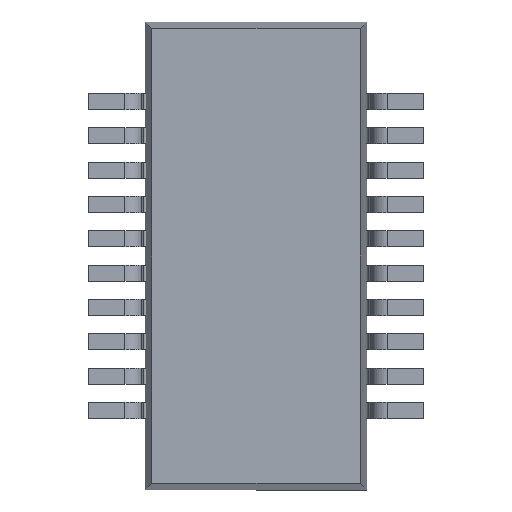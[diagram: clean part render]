
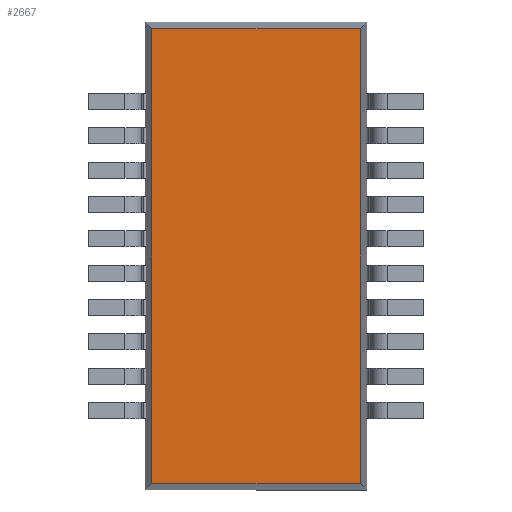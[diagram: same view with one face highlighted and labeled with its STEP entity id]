
A CAD part, front view. The second image highlights one B-rep face of the part: STEP entity #2667.
In plain terms, the highlighted planar face has unit normal (0, -1, 0).
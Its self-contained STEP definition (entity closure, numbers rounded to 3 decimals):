
#290 = ORIENTED_EDGE ( 'NONE', *, *, #1888, .T. ) ;
#291 = ORIENTED_EDGE ( 'NONE', *, *, #1948, .T. ) ;
#292 = ORIENTED_EDGE ( 'NONE', *, *, #1896, .T. ) ;
#293 = ORIENTED_EDGE ( 'NONE', *, *, #1949, .T. ) ;
#1888 = EDGE_CURVE ( 'NONE', #3251, #3254, #5149, .T. ) ;
#1896 = EDGE_CURVE ( 'NONE', #3241, #3249, #5169, .T. ) ;
#1948 = EDGE_CURVE ( 'NONE', #3254, #3241, #5269, .T. ) ;
#1949 = EDGE_CURVE ( 'NONE', #3249, #3251, #5271, .T. ) ;
#2667 = ADVANCED_FACE ( 'NONE', ( #8099 ), #7271, .F. ) ;
#3241 = VERTEX_POINT ( 'NONE', #11018 ) ;
#3249 = VERTEX_POINT ( 'NONE', #11026 ) ;
#3251 = VERTEX_POINT ( 'NONE', #11028 ) ;
#3254 = VERTEX_POINT ( 'NONE', #11031 ) ;
#3586 = EDGE_LOOP ( 'NONE', ( #290, #291, #292, #293 ) ) ;
#5035 = CARTESIAN_POINT ( 'NONE',  ( -1.927, 0.1, 4.33 ) ) ;
#5049 = DIRECTION ( 'NONE',  ( 0., 0., -1. ) ) ;
#5050 = CARTESIAN_POINT ( 'NONE',  ( 1.927, 0.1, 4.33 ) ) ;
#5063 = DIRECTION ( 'NONE',  ( 0., 0., 1. ) ) ;
#5149 = LINE ( 'NONE', #5035, #5158 ) ;
#5158 = VECTOR ( 'NONE', #5049, 1000. ) ;
#5169 = LINE ( 'NONE', #5050, #5174 ) ;
#5174 = VECTOR ( 'NONE', #5063, 1000. ) ;
#5269 = LINE ( 'NONE', #5943, #5272 ) ;
#5271 = LINE ( 'NONE', #5945, #5274 ) ;
#5272 = VECTOR ( 'NONE', #5944, 1000. ) ;
#5274 = VECTOR ( 'NONE', #5946, 1000. ) ;
#5943 = CARTESIAN_POINT ( 'NONE',  ( 2.05, 0.1, -4.207 ) ) ;
#5944 = DIRECTION ( 'NONE',  ( 1., 0., 0. ) ) ;
#5945 = CARTESIAN_POINT ( 'NONE',  ( 2.05, 0.1, 4.207 ) ) ;
#5946 = DIRECTION ( 'NONE',  ( -1., 0., 0. ) ) ;
#7271 = PLANE ( 'NONE',  #8423 ) ;
#7272 = CARTESIAN_POINT ( 'NONE',  ( 0., 0.1, 0. ) ) ;
#7284 = DIRECTION ( 'NONE',  ( 0., 1., 0. ) ) ;
#7285 = DIRECTION ( 'NONE',  ( 0., 0., 1. ) ) ;
#8099 = FACE_OUTER_BOUND ( 'NONE', #3586, .T. ) ;
#8423 = AXIS2_PLACEMENT_3D ( 'NONE', #7272, #7284, #7285 ) ;
#11018 = CARTESIAN_POINT ( 'NONE',  ( 1.927, 0.1, -4.207 ) ) ;
#11026 = CARTESIAN_POINT ( 'NONE',  ( 1.927, 0.1, 4.207 ) ) ;
#11028 = CARTESIAN_POINT ( 'NONE',  ( -1.927, 0.1, 4.207 ) ) ;
#11031 = CARTESIAN_POINT ( 'NONE',  ( -1.927, 0.1, -4.207 ) ) ;
